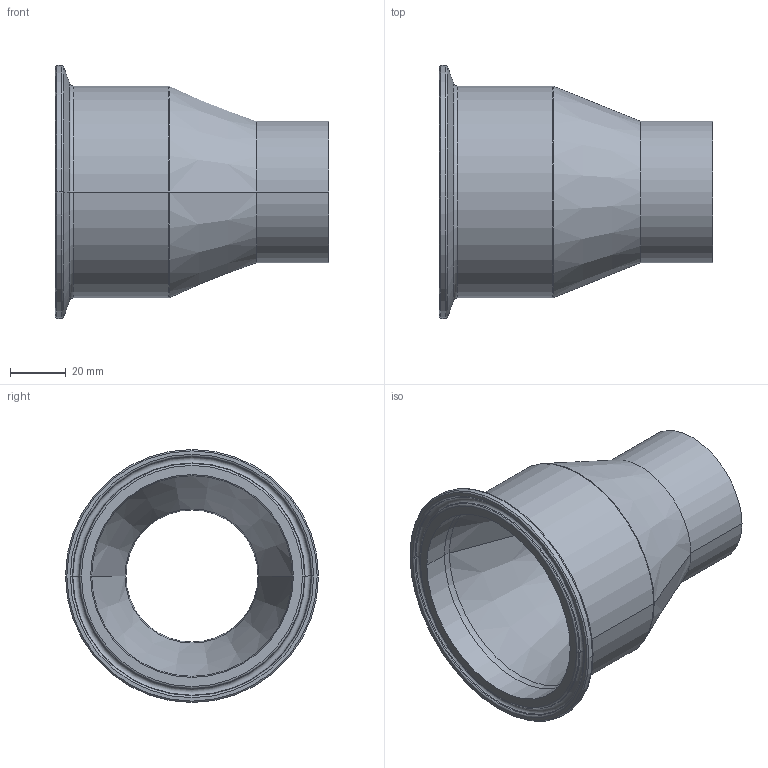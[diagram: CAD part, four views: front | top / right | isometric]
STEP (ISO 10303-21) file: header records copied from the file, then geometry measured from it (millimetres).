
FILE_DESCRIPTION (( 'STEP AP214' ), '1' );
FILE_NAME ('TE31SCW6L3.0x2.0-...STEP', '2016-05-29T12:02:45', ( 'eran' ), ( '' ), 'SwSTEP 2.0', 'SolidWorks 2016', '' );
FILE_SCHEMA (( 'AUTOMOTIVE_DESIGN' ));
Length unit declared in the file: millimetre
Products named in the file (1): TE31SCW6L3.0x2.0-..
Bounding box: 98.42 x 91 x 91 mm (x, y, z)
Volume: 110286 mm3; surface area: 42358.7 mm2
Topology: 1 solids, 1 shells, 41 faces, 82 edges, 44 vertices
Faces by surface type: torus 16, cone 12, cylinder 10, plane 3
Entity records: 1098 total; most frequent: DIRECTION 226, CARTESIAN_POINT 168, ORIENTED_EDGE 164, AXIS2_PLACEMENT_3D 102, EDGE_CURVE 82, CIRCLE 60, VERTEX_POINT 44, EDGE_LOOP 44
